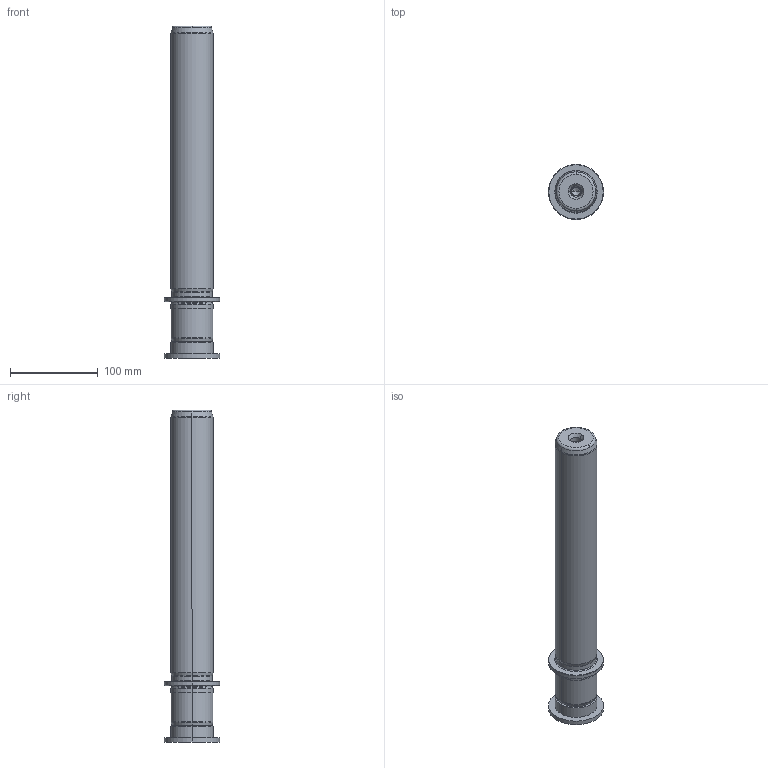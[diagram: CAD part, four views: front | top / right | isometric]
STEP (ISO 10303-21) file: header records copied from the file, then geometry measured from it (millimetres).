
FILE_DESCRIPTION((''),'2;1');
FILE_NAME('P22_048_315.stp','2009-11-02T10:42:10',(''),(''),'Mechanical Desktop 2009','Mechanical Desktop 2009',', , ');
FILE_SCHEMA(('CONFIG_CONTROL_DESIGN'));
Length unit declared in the file: millimetre
Products named in the file (2): Product; blmdl1
Assembly tree (1 placements, depth 2):
  Product
    blmdl1
Bounding box: 63 x 63 x 379 mm (x, y, z)
Volume: 687749.6 mm3; surface area: 74981.7 mm2
Topology: 3 solids, 3 shells, 99 faces, 237 edges, 149 vertices
Faces by surface type: cylinder 32, cone 28, plane 19, torus 10, bspline 10
Entity records: 3419 total; most frequent: CARTESIAN_POINT 923, DIRECTION 570, ORIENTED_EDGE 466, AXIS2_PLACEMENT_3D 246, EDGE_CURVE 233, CIRCLE 155, VERTEX_POINT 149, EDGE_LOOP 110
